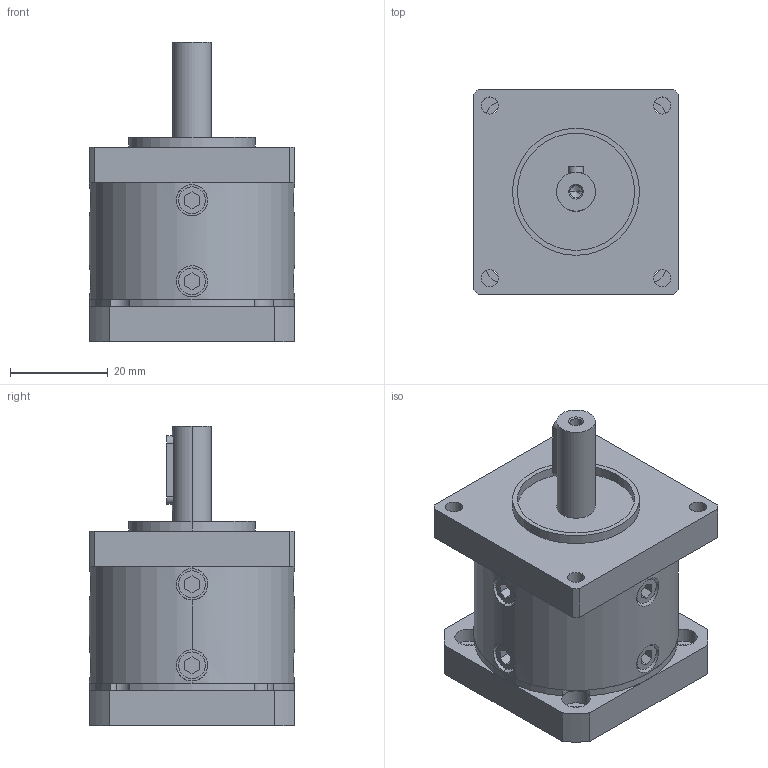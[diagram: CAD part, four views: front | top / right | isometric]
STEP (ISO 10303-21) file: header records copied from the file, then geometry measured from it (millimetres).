
FILE_DESCRIPTION (( 'STEP AP214' ), '1' );
FILE_NAME ('DLF42-L1-( )-J8_short.step', '2020-11-17T05:59:53', ( 'Moofasta' ), ( '' ), 'SwSTEP 2.0', 'SolidWorks 2020', '' );
FILE_SCHEMA (( 'AUTOMOTIVE_DESIGN' ));
Length unit declared in the file: millimetre
Products named in the file (1): DLF42-L1-(   )-J8_short
Bounding box: 42 x 42 x 61.4 mm (x, y, z)
Volume: 57430.4 mm3; surface area: 18615.1 mm2
Topology: 4 solids, 4 shells, 217 faces, 519 edges, 338 vertices
Faces by surface type: plane 106, cylinder 103, cone 8
Entity records: 7046 total; most frequent: CARTESIAN_POINT 1734, DIRECTION 1113, ORIENTED_EDGE 1030, EDGE_CURVE 515, AXIS2_PLACEMENT_3D 409, VERTEX_POINT 338, VECTOR 295, LINE 295
